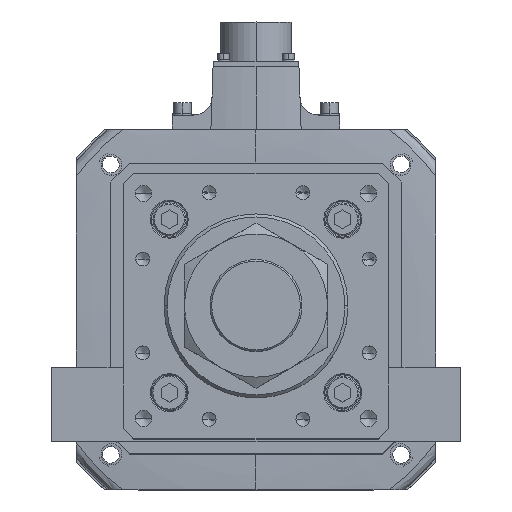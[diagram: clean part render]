
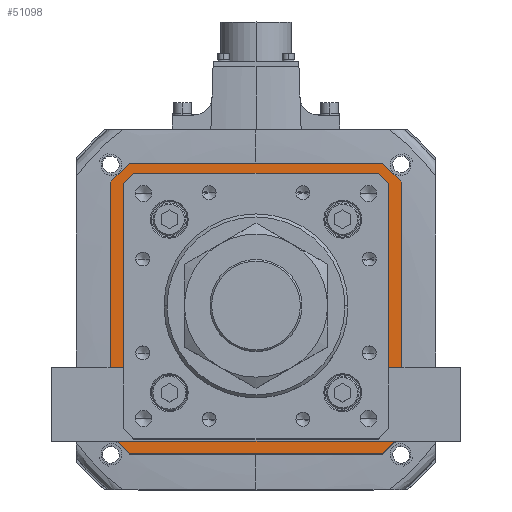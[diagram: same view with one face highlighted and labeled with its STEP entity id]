
A CAD part, top view. The second image highlights one B-rep face of the part: STEP entity #51098.
In plain terms, the highlighted planar face has unit normal (0, 0, 1).
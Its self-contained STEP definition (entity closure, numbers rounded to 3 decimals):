
#57 = VERTEX_POINT ( 'NONE', #14346 ) ;
#1242 = VECTOR ( 'NONE', #9451, 1000. ) ;
#1656 = DIRECTION ( 'NONE',  ( -0.707, 0.707, 0. ) ) ;
#1770 = VECTOR ( 'NONE', #14923, 1000. ) ;
#2019 = ORIENTED_EDGE ( 'NONE', *, *, #24874, .F. ) ;
#2832 = ORIENTED_EDGE ( 'NONE', *, *, #21917, .T. ) ;
#2989 = LINE ( 'NONE', #53126, #3646 ) ;
#3386 = EDGE_CURVE ( 'NONE', #20593, #5704, #22193, .T. ) ;
#3646 = VECTOR ( 'NONE', #6192, 1000. ) ;
#3746 = CARTESIAN_POINT ( 'NONE',  ( 62., -71., -142. ) ) ;
#3875 = VECTOR ( 'NONE', #44898, 1000. ) ;
#3952 = CARTESIAN_POINT ( 'NONE',  ( -63., 0., -142. ) ) ;
#4529 = EDGE_CURVE ( 'NONE', #40982, #26189, #29476, .T. ) ;
#5200 = LINE ( 'NONE', #6776, #36208 ) ;
#5704 = VERTEX_POINT ( 'NONE', #17712 ) ;
#6098 = EDGE_CURVE ( 'NONE', #20179, #47298, #6729, .T. ) ;
#6192 = DIRECTION ( 'NONE',  ( -0.707, -0.707, 0. ) ) ;
#6369 = CARTESIAN_POINT ( 'NONE',  ( -60.896, -60.896, -142. ) ) ;
#6550 = EDGE_CURVE ( 'NONE', #33689, #20179, #46026, .T. ) ;
#6660 = LINE ( 'NONE', #6369, #28208 ) ;
#6729 = LINE ( 'NONE', #37854, #47882 ) ;
#6776 = CARTESIAN_POINT ( 'NONE',  ( -62., -71., -142. ) ) ;
#8516 = EDGE_CURVE ( 'NONE', #40845, #33689, #6660, .T. ) ;
#8791 = EDGE_CURVE ( 'NONE', #53317, #20593, #36299, .T. ) ;
#8878 = VERTEX_POINT ( 'NONE', #44816 ) ;
#9228 = DIRECTION ( 'NONE',  ( 0., 0., 1. ) ) ;
#9451 = DIRECTION ( 'NONE',  ( 0.707, 0.707, 0. ) ) ;
#10482 = EDGE_CURVE ( 'NONE', #8878, #53317, #5200, .T. ) ;
#10725 = VECTOR ( 'NONE', #31164, 1000. ) ;
#10917 = CARTESIAN_POINT ( 'NONE',  ( 71., 62., -142. ) ) ;
#11025 = EDGE_CURVE ( 'NONE', #38890, #40845, #22028, .T. ) ;
#11076 = CARTESIAN_POINT ( 'NONE',  ( 63., 0., -142. ) ) ;
#11120 = CARTESIAN_POINT ( 'NONE',  ( 0., 63., -142. ) ) ;
#11209 = LINE ( 'NONE', #3746, #17950 ) ;
#11566 = FACE_OUTER_BOUND ( 'NONE', #50982, .T. ) ;
#11994 = ORIENTED_EDGE ( 'NONE', *, *, #46658, .F. ) ;
#13090 = VERTEX_POINT ( 'NONE', #32162 ) ;
#13097 = VERTEX_POINT ( 'NONE', #18795 ) ;
#13505 = DIRECTION ( 'NONE',  ( 0., 1., 0. ) ) ;
#13516 = VERTEX_POINT ( 'NONE', #40757 ) ;
#14346 = CARTESIAN_POINT ( 'NONE',  ( 58.793, 63., -142. ) ) ;
#14923 = DIRECTION ( 'NONE',  ( 1., 0., 0. ) ) ;
#15016 = CARTESIAN_POINT ( 'NONE',  ( -58.793, 63., -142. ) ) ;
#15034 = AXIS2_PLACEMENT_3D ( 'NONE', #51293, #9228, #34861 ) ;
#16497 = CARTESIAN_POINT ( 'NONE',  ( 58.793, -63., -142. ) ) ;
#16779 = LINE ( 'NONE', #10917, #3875 ) ;
#17530 = CARTESIAN_POINT ( 'NONE',  ( -63., -58.793, -142. ) ) ;
#17692 = CARTESIAN_POINT ( 'NONE',  ( 71., 62., -142. ) ) ;
#17712 = CARTESIAN_POINT ( 'NONE',  ( -62., 71., -142. ) ) ;
#17950 = VECTOR ( 'NONE', #29722, 1000. ) ;
#18005 = CARTESIAN_POINT ( 'NONE',  ( -71., 62., -142. ) ) ;
#18795 = CARTESIAN_POINT ( 'NONE',  ( 71., -62., -142. ) ) ;
#19176 = ORIENTED_EDGE ( 'NONE', *, *, #6550, .T. ) ;
#19281 = LINE ( 'NONE', #11120, #1770 ) ;
#20179 = VERTEX_POINT ( 'NONE', #24452 ) ;
#20356 = VECTOR ( 'NONE', #30118, 1000. ) ;
#20593 = VERTEX_POINT ( 'NONE', #31468 ) ;
#20654 = EDGE_CURVE ( 'NONE', #13097, #31599, #49609, .T. ) ;
#21013 = FACE_BOUND ( 'NONE', #42974, .T. ) ;
#21114 = PLANE ( 'NONE',  #15034 ) ;
#21917 = EDGE_CURVE ( 'NONE', #57, #40982, #26472, .T. ) ;
#22028 = LINE ( 'NONE', #53464, #53009 ) ;
#22193 = LINE ( 'NONE', #31094, #1242 ) ;
#22881 = CARTESIAN_POINT ( 'NONE',  ( 62., 71., -142. ) ) ;
#23866 = ORIENTED_EDGE ( 'NONE', *, *, #8791, .F. ) ;
#23882 = VECTOR ( 'NONE', #40945, 1000. ) ;
#24452 = CARTESIAN_POINT ( 'NONE',  ( -63., 58.793, -142. ) ) ;
#24874 = EDGE_CURVE ( 'NONE', #13516, #13090, #42554, .T. ) ;
#25305 = EDGE_CURVE ( 'NONE', #5704, #13516, #29561, .T. ) ;
#25412 = VECTOR ( 'NONE', #54028, 1000. ) ;
#25707 = ORIENTED_EDGE ( 'NONE', *, *, #44290, .F. ) ;
#26189 = VERTEX_POINT ( 'NONE', #30994 ) ;
#26472 = LINE ( 'NONE', #29787, #45436 ) ;
#27223 = EDGE_CURVE ( 'NONE', #47298, #57, #19281, .T. ) ;
#27671 = CARTESIAN_POINT ( 'NONE',  ( 62., -71., -142. ) ) ;
#27685 = CARTESIAN_POINT ( 'NONE',  ( 71., -62., -142. ) ) ;
#28208 = VECTOR ( 'NONE', #1656, 1000. ) ;
#28405 = ORIENTED_EDGE ( 'NONE', *, *, #11025, .T. ) ;
#28801 = ORIENTED_EDGE ( 'NONE', *, *, #4529, .T. ) ;
#29426 = ORIENTED_EDGE ( 'NONE', *, *, #10482, .F. ) ;
#29476 = LINE ( 'NONE', #11076, #25412 ) ;
#29561 = LINE ( 'NONE', #22881, #10725 ) ;
#29722 = DIRECTION ( 'NONE',  ( -1., 0., 0. ) ) ;
#29741 = EDGE_CURVE ( 'NONE', #26189, #38890, #2989, .T. ) ;
#29787 = CARTESIAN_POINT ( 'NONE',  ( 60.896, 60.896, -142. ) ) ;
#30118 = DIRECTION ( 'NONE',  ( 0., 1., 0. ) ) ;
#30951 = VECTOR ( 'NONE', #31204, 1000. ) ;
#30994 = CARTESIAN_POINT ( 'NONE',  ( 63., -58.793, -142. ) ) ;
#31094 = CARTESIAN_POINT ( 'NONE',  ( -62., 71., -142. ) ) ;
#31164 = DIRECTION ( 'NONE',  ( 1., 0., 0. ) ) ;
#31204 = DIRECTION ( 'NONE',  ( 0.707, -0.707, 0. ) ) ;
#31256 = ORIENTED_EDGE ( 'NONE', *, *, #6098, .T. ) ;
#31468 = CARTESIAN_POINT ( 'NONE',  ( -71., 62., -142. ) ) ;
#31599 = VERTEX_POINT ( 'NONE', #27671 ) ;
#32162 = CARTESIAN_POINT ( 'NONE',  ( 71., 62., -142. ) ) ;
#32539 = ORIENTED_EDGE ( 'NONE', *, *, #3386, .F. ) ;
#32940 = ORIENTED_EDGE ( 'NONE', *, *, #29741, .T. ) ;
#33689 = VERTEX_POINT ( 'NONE', #17530 ) ;
#34861 = DIRECTION ( 'NONE',  ( 1., 0., 0. ) ) ;
#36208 = VECTOR ( 'NONE', #54464, 1000. ) ;
#36299 = LINE ( 'NONE', #18005, #36962 ) ;
#36962 = VECTOR ( 'NONE', #13505, 1000. ) ;
#37049 = ORIENTED_EDGE ( 'NONE', *, *, #8516, .T. ) ;
#37854 = CARTESIAN_POINT ( 'NONE',  ( -60.896, 60.896, -142. ) ) ;
#38890 = VERTEX_POINT ( 'NONE', #16497 ) ;
#39835 = ORIENTED_EDGE ( 'NONE', *, *, #25305, .F. ) ;
#40757 = CARTESIAN_POINT ( 'NONE',  ( 62., 71., -142. ) ) ;
#40845 = VERTEX_POINT ( 'NONE', #50002 ) ;
#40945 = DIRECTION ( 'NONE',  ( -0.707, -0.707, 0. ) ) ;
#40982 = VERTEX_POINT ( 'NONE', #46386 ) ;
#42057 = CARTESIAN_POINT ( 'NONE',  ( -71., -62., -142. ) ) ;
#42554 = LINE ( 'NONE', #17692, #30951 ) ;
#42974 = EDGE_LOOP ( 'NONE', ( #28801, #32940, #28405, #37049, #19176, #31256, #43903, #2832 ) ) ;
#43903 = ORIENTED_EDGE ( 'NONE', *, *, #27223, .T. ) ;
#44290 = EDGE_CURVE ( 'NONE', #31599, #8878, #11209, .T. ) ;
#44816 = CARTESIAN_POINT ( 'NONE',  ( -62., -71., -142. ) ) ;
#44898 = DIRECTION ( 'NONE',  ( 0., -1., 0. ) ) ;
#45436 = VECTOR ( 'NONE', #55286, 1000. ) ;
#46026 = LINE ( 'NONE', #3952, #20356 ) ;
#46386 = CARTESIAN_POINT ( 'NONE',  ( 63., 58.793, -142. ) ) ;
#46658 = EDGE_CURVE ( 'NONE', #13090, #13097, #16779, .T. ) ;
#47298 = VERTEX_POINT ( 'NONE', #15016 ) ;
#47882 = VECTOR ( 'NONE', #51227, 1000. ) ;
#49368 = DIRECTION ( 'NONE',  ( -1., 0., 0. ) ) ;
#49609 = LINE ( 'NONE', #27685, #23882 ) ;
#50002 = CARTESIAN_POINT ( 'NONE',  ( -58.793, -63., -142. ) ) ;
#50982 = EDGE_LOOP ( 'NONE', ( #39835, #32539, #23866, #29426, #25707, #54004, #11994, #2019 ) ) ;
#51098 = ADVANCED_FACE ( 'NONE', ( #21013, #11566 ), #21114, .T. ) ;
#51227 = DIRECTION ( 'NONE',  ( 0.707, 0.707, 0. ) ) ;
#51293 = CARTESIAN_POINT ( 'NONE',  ( 0., 0., -142. ) ) ;
#53009 = VECTOR ( 'NONE', #49368, 1000. ) ;
#53126 = CARTESIAN_POINT ( 'NONE',  ( 60.896, -60.896, -142. ) ) ;
#53317 = VERTEX_POINT ( 'NONE', #42057 ) ;
#53464 = CARTESIAN_POINT ( 'NONE',  ( 0., -63., -142. ) ) ;
#54004 = ORIENTED_EDGE ( 'NONE', *, *, #20654, .F. ) ;
#54028 = DIRECTION ( 'NONE',  ( 0., -1., 0. ) ) ;
#54464 = DIRECTION ( 'NONE',  ( -0.707, 0.707, 0. ) ) ;
#55286 = DIRECTION ( 'NONE',  ( 0.707, -0.707, 0. ) ) ;
